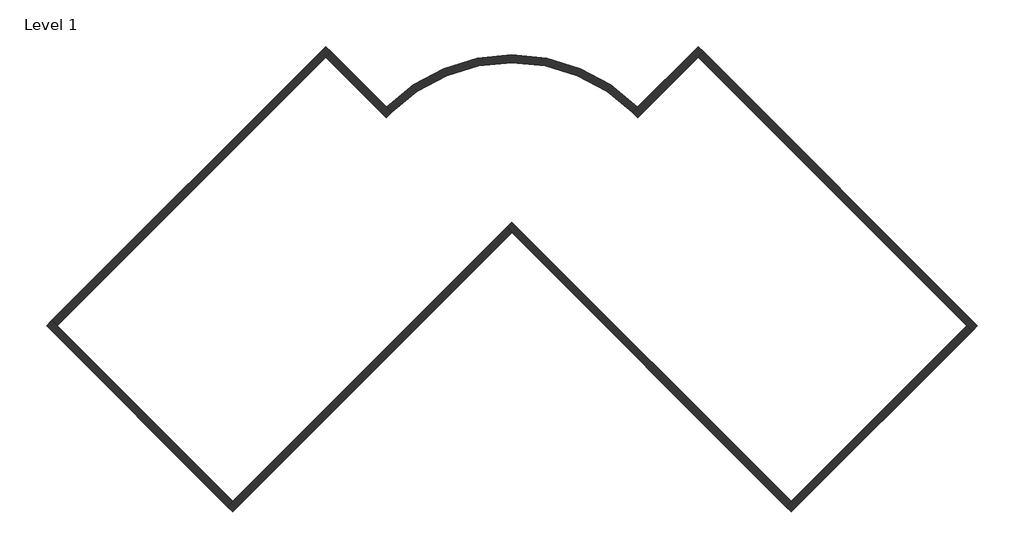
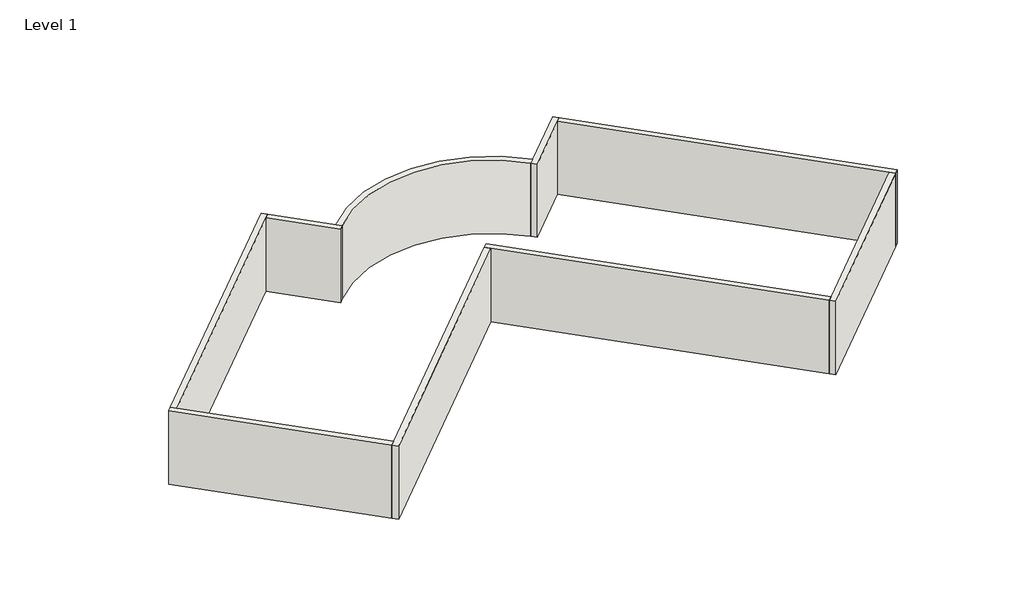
# One storey: 9 walls.
"""IFC4 building model written with IfcOpenShell, lengths in millimetres."""

from ifc_helpers import new_model, si_unit, point, frame, frame_2d, origin, origin_with_axes, place, context, project, spatial, polyline, circle_curve, trimmed, segment, composite_curve, outline, extrude, faceted_brep, element, save
from ifc_brep_helpers import plane_surface, revolved_surface, advanced_brep

model = new_model("IFC4")

# Units and contexts
model_context = context("Model", 3, world=origin())
ifc_project = project(units=[si_unit("LENGTHUNIT", "METRE", prefix="MILLI")], contexts=[model_context])

# Site, building, storey
site = spatial("IfcSite", under=ifc_project)
building = spatial("IfcBuilding", under=site)
storey = spatial("IfcBuildingStorey", under=building, Name="Level 1", Elevation=0.0)

# Walls
placement = place(None, origin())
element("IfcWall", 1, ObjectType="Exterior - Brick on Mtl. Stud", at=placement, inside=storey, context=model_context, shape_type="AdvancedBrep", body=[
    advanced_brep(
    [(4212.7441701, 7313.6674352, 0.0), (7019.8001803, 10120.7234455, 0.0), (7267.2875537, 10368.2108189, 0.0), (7267.2875537, 10368.2108189, 4572.0), (7019.8001803, 10120.7234455, 4572.0), (4212.7441701, 7313.6674352, 4572.0), (3970.7557398, 7566.6537518, 0.0), (3970.7557398, 7566.6537518, 4572.0), (4218.2431133, 7814.1411252, 4572.0), (7019.8001803, 10615.6981923, 4572.0), (7019.8001803, 10615.6981923, 0.0), (4218.2431133, 7814.1411252, 0.0)],
    [
        (0, 1),
        (1, 2),
        (2, 3),
        (3, 4),
        (4, 5),
        (5, 0),
        (6, 7),
        (7, 8),
        (8, 9),
        (9, 10),
        (10, 11),
        (11, 6),
        (0, 6, circle_curve(frame((-1601.2456959, 1994.6523161, 0.0), z_axis=(0.0, 0.0, 1.0), x_axis=(1.0, 0.0, 0.0)), 7880.0)),
        (10, 2),
        (3, 9),
        (7, 5, circle_curve(frame((-1601.2456959, 1994.6523161, 4572.0), z_axis=(0.0, 0.0, -1.0), x_axis=(1.0, 0.0, 0.0)), 7880.0)),
    ],
    [
        plane_surface(frame((4250.0629184, 7350.9861836, 0.0), z_axis=(0.7071067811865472, -0.7071067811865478, 0.0), x_axis=(0.7071067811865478, 0.7071067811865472, 0.0))),
        plane_surface(frame((4002.575545, 7598.473557, 0.0), z_axis=(-0.7071067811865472, 0.7071067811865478, 0.0), x_axis=(-0.7071067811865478, -0.7071067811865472, 0.0))),
        plane_surface(frame((4340.6424361, 7441.5657013, 0.0), z_axis=(0.0, 0.0, -1.0), x_axis=(-0.7071067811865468, 0.7071067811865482, 0.0))),
        plane_surface(frame((7143.543867, 10244.4671322, 4572.0), z_axis=(0.0, 0.0, 1.0), x_axis=(-0.707106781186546, 0.7071067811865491, 0.0))),
        plane_surface(frame((7019.8001803, 10615.6981923, 0.0), z_axis=(0.7071067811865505, 0.7071067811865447, 0.0), x_axis=(-0.7071067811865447, 0.7071067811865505, 0.0))),
        revolved_surface(polyline([(6278.7543041, 1994.6523161, 0.0), (6278.7543041, 1994.6523161, 4572.0)]), (-1601.2456959, 1994.6523161, 0.0), (0.0, 0.0, -1.0)),
    ],
    [
        (0, [[1, 2, 3, 4, 5, 6]]),
        (1, [[7, 8, 9, 10, 11, 12]]),
        (2, [[-2, -1, 13, -12, -11, 14]]),
        (3, [[-5, -4, 15, -9, -8, 16]]),
        (4, [[-3, -14, -10, -15]]),
        (5, [[-6, -16, -7, -13]]),
    ],
),
])
element("IfcWall", 2, ObjectType="Exterior - Brick on Mtl. Stud", at=placement, inside=storey, context=model_context, shape_type="Brep", body=[
    faceted_brep([(7019.8001803, 10120.7234455, 0.0), (19456.3942478, -2315.870622, 0.0), (19703.8816212, -2563.3579955, 0.0), (19703.8816212, -2563.3579955, 4572.0), (19456.3942478, -2315.870622, 4572.0), (7019.8001803, 10120.7234455, 4572.0), (7267.2875537, 10368.2108189, 0.0), (7267.2875537, 10368.2108189, 4572.0), (19951.3689947, -2315.870622, 4572.0), (19951.3689947, -2315.870622, 0.0)], [[[0, 1, 2, 3, 4, 5]], [[6, 7, 8, 9]], [[2, 1, 0, 6, 9]], [[5, 4, 3, 8, 7]], [[0, 5, 7, 6]], [[3, 2, 9, 8]]]),
])
element("IfcWall", 3, ObjectType="Exterior - Brick on Mtl. Stud", at=placement, inside=storey, context=model_context, shape_type="Brep", body=[
    faceted_brep([(19456.3942478, -2315.870622, 0.0), (11330.3231184, -10441.9417514, 0.0), (11082.835745, -10689.4291248, 0.0), (11082.835745, -10689.4291248, 4572.0), (11330.3231184, -10441.9417514, 4572.0), (19456.3942478, -2315.870622, 4572.0), (19703.8816212, -2563.3579955, 0.0), (19703.8816212, -2563.3579955, 4572.0), (11330.3231184, -10936.9164983, 4572.0), (11330.3231184, -10936.9164983, 0.0)], [[[0, 1, 2, 3, 4, 5]], [[6, 7, 8, 9]], [[2, 1, 0, 6, 9]], [[5, 4, 3, 8, 7]], [[0, 5, 7, 6]], [[3, 2, 9, 8]]]),
])
element("IfcWall", 4, ObjectType="Exterior - Brick on Mtl. Stud", at=placement, inside=storey, context=model_context, shape_type="Brep", body=[
    faceted_brep([(11330.3231184, -10441.9417514, 0.0), (-1601.2456959, 2489.6270629, 0.0), (-1601.2456959, 2489.6270629, 4572.0), (11330.3231184, -10441.9417514, 4572.0), (11082.835745, -10689.4291248, 0.0), (11082.835745, -10689.4291248, 4572.0), (-1601.2456959, 1994.6523161, 4572.0), (-1848.7330693, 2242.1396895, 4572.0), (-1848.7330693, 2242.1396895, 0.0), (-1601.2456959, 1994.6523161, 0.0)], [[[0, 1, 2, 3]], [[4, 5, 6, 7, 8, 9]], [[1, 0, 4, 9, 8]], [[3, 2, 7, 6, 5]], [[0, 3, 5, 4]], [[2, 1, 8, 7]]]),
])
element("IfcWall", 5, ObjectType="Exterior - Brick on Mtl. Stud", at=placement, inside=storey, context=model_context, shape_type="Brep", body=[
    faceted_brep([(-1848.7330693, 2242.1396895, 0.0), (-14532.8145102, -10441.9417514, 0.0), (-14780.3018837, -10689.4291248, 0.0), (-14780.3018837, -10689.4291248, 4572.0), (-14532.8145102, -10441.9417514, 4572.0), (-1848.7330693, 2242.1396895, 4572.0), (-1601.2456959, 1994.6523161, 0.0), (-1601.2456959, 1994.6523161, 4572.0), (-14532.8145102, -10936.9164983, 4572.0), (-14532.8145102, -10936.9164983, 0.0)], [[[0, 1, 2, 3, 4, 5]], [[6, 7, 8, 9]], [[2, 1, 0, 6, 9]], [[5, 4, 3, 8, 7]], [[0, 5, 7, 6]], [[3, 2, 9, 8]]]),
])
element("IfcWall", 6, ObjectType="Exterior - Brick on Mtl. Stud", at=placement, inside=storey, context=model_context, shape_type="Brep", body=[
    faceted_brep([(-14532.8145102, -10441.9417514, 0.0), (-22658.8856396, -2315.870622, 0.0), (-22906.3730131, -2068.3832486, 0.0), (-22906.3730131, -2068.3832486, 4572.0), (-22658.8856396, -2315.870622, 4572.0), (-14532.8145102, -10441.9417514, 4572.0), (-14780.3018837, -10689.4291248, 0.0), (-14780.3018837, -10689.4291248, 4572.0), (-23153.8603865, -2315.870622, 4572.0), (-23153.8603865, -2315.870622, 0.0)], [[[0, 1, 2, 3, 4, 5]], [[6, 7, 8, 9]], [[2, 1, 0, 6, 9]], [[5, 4, 3, 8, 7]], [[0, 5, 7, 6]], [[3, 2, 9, 8]]]),
])
element("IfcWall", 7, ObjectType="Exterior - Brick on Mtl. Stud", at=placement, inside=storey, context=model_context, shape_type="Brep", body=[
    faceted_brep([(-22658.8856396, -2315.870622, 0.0), (-10222.2915721, 10120.7234455, 0.0), (-9974.8041987, 10368.2108189, 0.0), (-9974.8041987, 10368.2108189, 4572.0), (-10222.2915721, 10120.7234455, 4572.0), (-22658.8856396, -2315.870622, 4572.0), (-22906.3730131, -2068.3832486, 0.0), (-22906.3730131, -2068.3832486, 4572.0), (-10222.2915721, 10615.6981923, 4572.0), (-10222.2915721, 10615.6981923, 0.0)], [[[0, 1, 2, 3, 4, 5]], [[6, 7, 8, 9]], [[2, 1, 0, 6, 9]], [[5, 4, 3, 8, 7]], [[0, 5, 7, 6]], [[3, 2, 9, 8]]]),
])
element("IfcWall", 8, ObjectType="Exterior - Brick on Mtl. Stud", at=placement, inside=storey, context=model_context, shape_type="AdvancedBrep", body=[
    advanced_brep(
    [(-10222.2915721, 10120.7234455, 0.0), (-7415.2355619, 7313.6674352, 0.0), (-7415.2355619, 7313.6674352, 4572.0), (-10222.2915721, 10120.7234455, 4572.0), (-9974.8041987, 10368.2108189, 0.0), (-9974.8041987, 10368.2108189, 4572.0), (-7420.7345051, 7814.1411252, 4572.0), (-7173.2471317, 7566.6537518, 4572.0), (-7173.2471317, 7566.6537518, 0.0), (-7420.7345051, 7814.1411252, 0.0)],
    [
        (0, 1),
        (1, 2),
        (2, 3),
        (3, 0),
        (4, 5),
        (5, 6),
        (6, 7),
        (7, 8),
        (8, 9),
        (9, 4),
        (0, 4),
        (8, 1, circle_curve(frame((-1601.2456959, 1994.6523161, 0.0), z_axis=(0.0, 0.0, 1.0), x_axis=(1.0, 0.0, 0.0)), 7880.0)),
        (2, 7, circle_curve(frame((-1601.2456959, 1994.6523161, 4572.0), z_axis=(0.0, 0.0, -1.0), x_axis=(1.0, 0.0, 0.0)), 7880.0)),
        (5, 3),
    ],
    [
        plane_surface(frame((-10469.7789456, 10368.2108189, 0.0), z_axis=(-0.7071067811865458, -0.7071067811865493, 0.0), x_axis=(0.7071067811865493, -0.7071067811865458, 0.0))),
        plane_surface(frame((-10222.2915721, 10615.6981923, 0.0), z_axis=(0.7071067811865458, 0.7071067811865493, 0.0), x_axis=(-0.7071067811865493, 0.7071067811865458, 0.0))),
        plane_surface(frame((-10346.0352588, 10244.4671322, 0.0), z_axis=(0.0, 0.0, -1.0000000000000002), x_axis=(0.7071067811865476, 0.7071067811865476, 0.0))),
        plane_surface(frame((-7543.133828, 7441.5657013, 4572.0), z_axis=(0.0, 0.0, 1.0), x_axis=(0.707106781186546, 0.707106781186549, 0.0))),
        plane_surface(frame((-22906.3730131, -2563.3579955, 0.0), z_axis=(-0.7071067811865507, 0.7071067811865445, 0.0), x_axis=(0.7071067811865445, 0.7071067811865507, 0.0))),
        revolved_surface(polyline([(6278.7543041, 1994.6523161, 0.0), (6278.7543041, 1994.6523161, 4572.0)]), (-1601.2456959, 1994.6523161, 0.0), (0.0, 0.0, -1.0)),
    ],
    [
        (0, [[1, 2, 3, 4]]),
        (1, [[5, 6, 7, 8, 9, 10]]),
        (2, [[-1, 11, -10, -9, 12]]),
        (3, [[-3, 13, -7, -6, 14]]),
        (4, [[-4, -14, -5, -11]]),
        (5, [[-2, -12, -8, -13]]),
    ],
),
])
element("IfcWall", 9, ObjectType="Exterior - Brick on Mtl. Stud", at=placement, inside=storey, context=model_context, shape_type="SweptSolid", body=[
    extrude(outline(composite_curve([segment(polyline([(4218.2431133, 7814.1411252), (3970.7557398, 7566.6537518)]), True, "CONTINUOUS"), segment(trimmed(circle_curve(frame_2d((-1601.2456959, 1994.6523161)), 7880.0), [point((3970.7557398, 7566.6537518))], [point((-7173.2471317, 7566.6537518))], True, "CARTESIAN"), True, "CONTINUOUS"), segment(polyline([(-7173.2471317, 7566.6537518), (-7420.7345051, 7814.1411252)]), True, "CONTINUOUS"), segment(trimmed(circle_curve(frame_2d((-1601.2456959, 1994.6523161)), 8230.0), [point((-7420.7345051, 7814.1411252))], [point((4218.2431133, 7814.1411252))], False, "CARTESIAN"), True, "CONTINUOUS")], self_intersect=False)), origin_with_axes(), (0.0, 0.0, 1.0), 4572.0),
])

save(model, "model.ifc")
